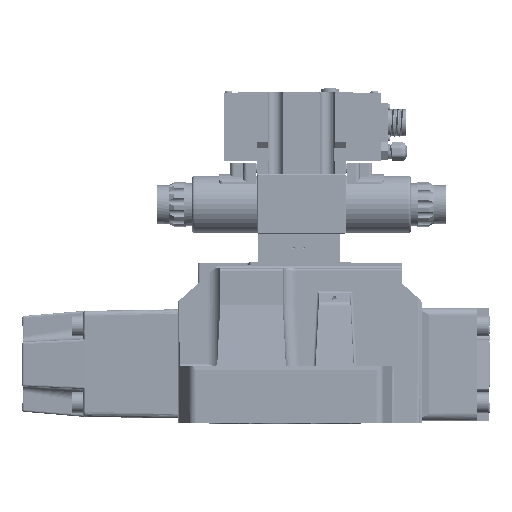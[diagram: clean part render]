
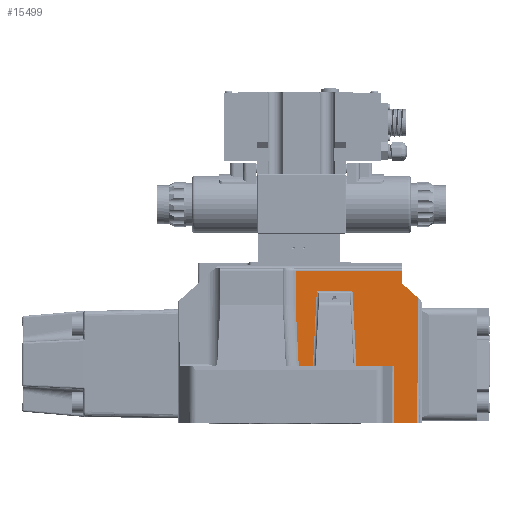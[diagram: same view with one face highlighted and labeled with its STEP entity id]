
A CAD part, front view. The second image highlights one B-rep face of the part: STEP entity #15499.
In plain terms, the highlighted planar face has unit normal (0, -1, 0.017).
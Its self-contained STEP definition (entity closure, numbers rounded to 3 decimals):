
#90=ELLIPSE('',#60516,242.033,4.);
#15499=ADVANCED_FACE('',(#19364),#17541,.F.);
#17541=PLANE('',#60517);
#19364=FACE_OUTER_BOUND('',#22902,.T.);
#22902=EDGE_LOOP('',(#34302,#34303,#34304,#34305,#34306,#34307,#34308,#34309,
#34310,#34311,#34312,#34313,#34314));
#34302=ORIENTED_EDGE('',*,*,#48825,.T.);
#34303=ORIENTED_EDGE('',*,*,#48826,.T.);
#34304=ORIENTED_EDGE('',*,*,#48827,.T.);
#34305=ORIENTED_EDGE('',*,*,#48828,.T.);
#34306=ORIENTED_EDGE('',*,*,#48829,.T.);
#34307=ORIENTED_EDGE('',*,*,#48830,.T.);
#34308=ORIENTED_EDGE('',*,*,#48831,.F.);
#34309=ORIENTED_EDGE('',*,*,#48832,.T.);
#34310=ORIENTED_EDGE('',*,*,#48833,.T.);
#34311=ORIENTED_EDGE('',*,*,#48834,.F.);
#34312=ORIENTED_EDGE('',*,*,#48835,.F.);
#34313=ORIENTED_EDGE('',*,*,#48836,.F.);
#34314=ORIENTED_EDGE('',*,*,#48823,.F.);
#42800=VERTEX_POINT('',#131269);
#42801=VERTEX_POINT('',#131271);
#42802=VERTEX_POINT('',#131275);
#42803=VERTEX_POINT('',#131277);
#42804=VERTEX_POINT('',#131279);
#42805=VERTEX_POINT('',#131281);
#42806=VERTEX_POINT('',#131283);
#42807=VERTEX_POINT('',#131285);
#42808=VERTEX_POINT('',#131287);
#42809=VERTEX_POINT('',#131289);
#42810=VERTEX_POINT('',#131291);
#42811=VERTEX_POINT('',#131293);
#42812=VERTEX_POINT('',#131295);
#48823=EDGE_CURVE('',#42800,#42801,#53326,.T.);
#48825=EDGE_CURVE('',#42800,#42802,#53327,.T.);
#48826=EDGE_CURVE('',#42802,#42803,#53328,.T.);
#48827=EDGE_CURVE('',#42803,#42804,#53329,.T.);
#48828=EDGE_CURVE('',#42804,#42805,#53330,.T.);
#48829=EDGE_CURVE('',#42805,#42806,#53331,.T.);
#48830=EDGE_CURVE('',#42806,#42807,#53332,.T.);
#48831=EDGE_CURVE('',#42808,#42807,#53333,.T.);
#48832=EDGE_CURVE('',#42808,#42809,#53334,.T.);
#48833=EDGE_CURVE('',#42809,#42810,#53335,.T.);
#48834=EDGE_CURVE('',#42811,#42810,#90,.T.);
#48835=EDGE_CURVE('',#42812,#42811,#53336,.T.);
#48836=EDGE_CURVE('',#42801,#42812,#53337,.T.);
#53326=LINE('',#131270,#56046);
#53327=LINE('',#131274,#56047);
#53328=LINE('',#131276,#56048);
#53329=LINE('',#131278,#56049);
#53330=LINE('',#131280,#56050);
#53331=LINE('',#131282,#56051);
#53332=LINE('',#131284,#56052);
#53333=LINE('',#131286,#56053);
#53334=LINE('',#131288,#56054);
#53335=LINE('',#131290,#56055);
#53336=LINE('',#131294,#56056);
#53337=LINE('',#131296,#56057);
#56046=VECTOR('',#70758,1.);
#56047=VECTOR('',#70763,1.);
#56048=VECTOR('',#70764,1.);
#56049=VECTOR('',#70765,1.);
#56050=VECTOR('',#70766,1.);
#56051=VECTOR('',#70767,1.);
#56052=VECTOR('',#70768,1.);
#56053=VECTOR('',#70769,1.);
#56054=VECTOR('',#70770,1.);
#56055=VECTOR('',#70771,1.);
#56056=VECTOR('',#70774,1.);
#56057=VECTOR('',#70775,1.);
#60516=AXIS2_PLACEMENT_3D('',#131292,#70772,#70773);
#60517=AXIS2_PLACEMENT_3D('',#131297,#70776,#70777);
#70758=DIRECTION('',(1.,0.,0.));
#70763=DIRECTION('',(0.,-0.017,-1.));
#70764=DIRECTION('',(0.052,-0.017,-0.998));
#70765=DIRECTION('',(1.,0.,0.));
#70766=DIRECTION('',(0.052,0.017,0.998));
#70767=DIRECTION('',(1.,0.,0.));
#70768=DIRECTION('',(0.052,-0.017,-0.998));
#70769=DIRECTION('',(-1.,0.,0.));
#70770=DIRECTION('',(-0.006,-0.017,-1.));
#70771=DIRECTION('',(1.,0.,0.));
#70772=DIRECTION('',(0.,-1.,0.017));
#70773=DIRECTION('',(0.,-0.017,-1.));
#70774=DIRECTION('',(0.742,-0.011,-0.67));
#70775=DIRECTION('',(0.,-0.017,-1.));
#70776=DIRECTION('',(0.,1.,-0.017));
#70777=DIRECTION('',(-1.,0.,0.));
#131269=CARTESIAN_POINT('',(325.702,167.192,119.033));
#131270=CARTESIAN_POINT('',(233.765,167.192,119.033));
#131271=CARTESIAN_POINT('',(409.265,167.192,119.033));
#131274=CARTESIAN_POINT('',(325.702,167.307,125.982));
#131275=CARTESIAN_POINT('',(325.702,166.758,92.779));
#131276=CARTESIAN_POINT('',(324.181,167.239,121.852));
#131277=CARTESIAN_POINT('',(328.228,165.96,44.5));
#131278=CARTESIAN_POINT('',(345.805,165.96,44.5));
#131279=CARTESIAN_POINT('',(339.259,165.96,44.5));
#131280=CARTESIAN_POINT('',(341.842,166.776,93.869));
#131281=CARTESIAN_POINT('',(342.333,166.931,103.266));
#131282=CARTESIAN_POINT('',(403.151,166.931,103.266));
#131283=CARTESIAN_POINT('',(370.197,166.931,103.266));
#131284=CARTESIAN_POINT('',(369.102,167.277,124.201));
#131285=CARTESIAN_POINT('',(373.271,165.96,44.5));
#131286=CARTESIAN_POINT('',(388.607,165.96,44.5));
#131287=CARTESIAN_POINT('',(403.052,165.96,44.5));
#131288=CARTESIAN_POINT('',(403.557,167.307,125.957));
#131289=CARTESIAN_POINT('',(402.776,165.225,0.));
#131290=CARTESIAN_POINT('',(403.151,165.225,0.));
#131291=CARTESIAN_POINT('',(420.892,165.225,0.));
#131292=CARTESIAN_POINT('',(424.765,164.225,-60.483));
#131293=CARTESIAN_POINT('',(421.738,166.84,97.734));
#131294=CARTESIAN_POINT('',(424.308,166.802,95.413));
#131295=CARTESIAN_POINT('',(409.265,167.026,109.));
#131296=CARTESIAN_POINT('',(409.265,167.019,108.59));
#131297=CARTESIAN_POINT('',(403.151,167.307,125.982));
